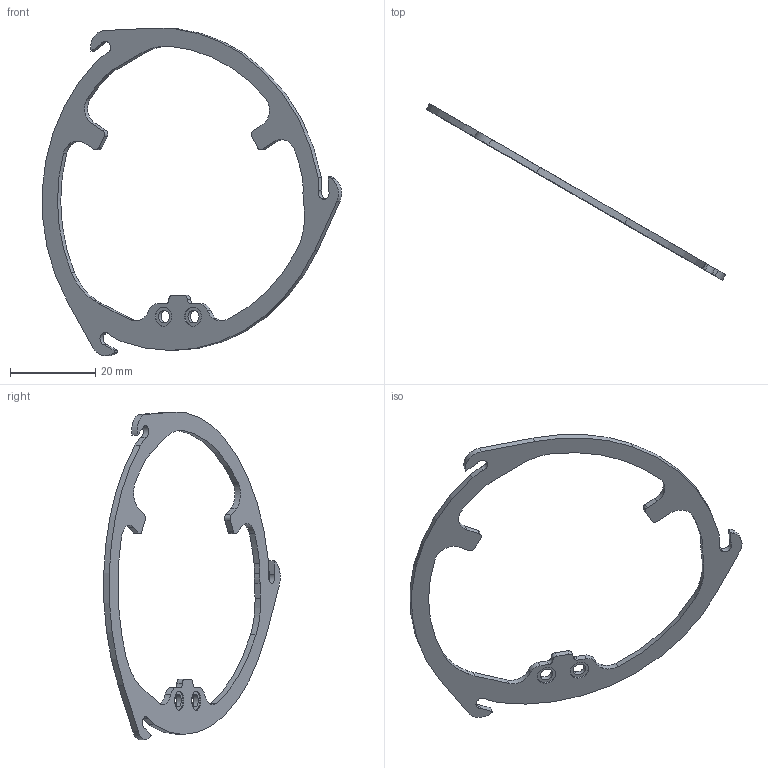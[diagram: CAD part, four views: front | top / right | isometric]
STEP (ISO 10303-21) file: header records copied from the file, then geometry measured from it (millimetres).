
FILE_DESCRIPTION (( 'STEP AP203' ), '1' );
FILE_NAME ('PEN-HV-PPC.STEP', '2025-01-21T11:49:41', ( '' ), ( '' ), 'SwSTEP 2.0', 'SolidWorks 2024', '' );
FILE_SCHEMA (( 'CONFIG_CONTROL_DESIGN' ));
Length unit declared in the file: millimetre
Products named in the file (1): PEN-HV-PPC
Bounding box: 70.32 x 41.47 x 76.95 mm (x, y, z)
Volume: 1934 mm3; surface area: 3397.9 mm2
Topology: 1 solids, 1 shells, 83 faces, 237 edges, 158 vertices
Faces by surface type: cylinder 55, plane 28
Entity records: 2850 total; most frequent: DIRECTION 515, CARTESIAN_POINT 479, ORIENTED_EDGE 474, EDGE_CURVE 237, AXIS2_PLACEMENT_3D 194, VERTEX_POINT 158, VECTOR 127, LINE 127
